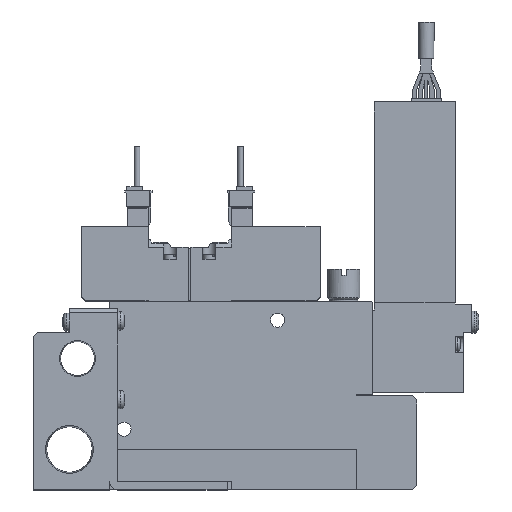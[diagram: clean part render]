
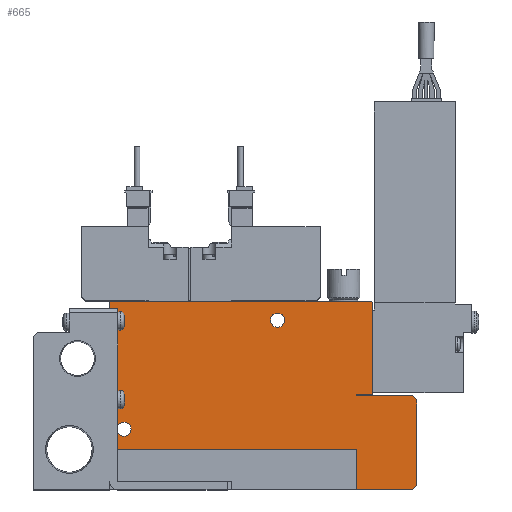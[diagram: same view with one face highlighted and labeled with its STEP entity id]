
A CAD part, top view. The second image highlights one B-rep face of the part: STEP entity #665.
In plain terms, the highlighted planar face has unit normal (0, 0, 1).
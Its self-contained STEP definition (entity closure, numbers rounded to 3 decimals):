
#665=ADVANCED_FACE('',(#1566,#1567,#1568),#1569,.F.);
#1566=FACE_OUTER_BOUND('',#2710,.T.);
#1567=FACE_BOUND('',#2711,.T.);
#1568=FACE_BOUND('',#2712,.T.);
#1569=PLANE('',#2713);
#2710=EDGE_LOOP('',(#5902,#5903,#5904,#5905,#5906,#5907,#5908,#5909,#5910,#5911,#5912,#5913,#5914,#5915));
#2711=EDGE_LOOP('',(#5916));
#2712=EDGE_LOOP('',(#5917));
#2713=AXIS2_PLACEMENT_3D('',#5918,#5919,#5920);
#5902=ORIENTED_EDGE('',*,*,#8067,.T.);
#5903=ORIENTED_EDGE('',*,*,#8068,.F.);
#5904=ORIENTED_EDGE('',*,*,#8069,.F.);
#5905=ORIENTED_EDGE('',*,*,#8070,.T.);
#5906=ORIENTED_EDGE('',*,*,#8071,.T.);
#5907=ORIENTED_EDGE('',*,*,#8065,.T.);
#5908=ORIENTED_EDGE('',*,*,#8072,.T.);
#5909=ORIENTED_EDGE('',*,*,#8073,.T.);
#5910=ORIENTED_EDGE('',*,*,#8074,.T.);
#5911=ORIENTED_EDGE('',*,*,#8075,.T.);
#5912=ORIENTED_EDGE('',*,*,#8076,.T.);
#5913=ORIENTED_EDGE('',*,*,#8077,.T.);
#5914=ORIENTED_EDGE('',*,*,#8078,.T.);
#5915=ORIENTED_EDGE('',*,*,#8079,.T.);
#5916=ORIENTED_EDGE('',*,*,#8080,.F.);
#5917=ORIENTED_EDGE('',*,*,#8081,.F.);
#5918=CARTESIAN_POINT('',(0.0,0.0,5.0));
#5919=DIRECTION('',(0.0,0.0,-1.0));
#5920=DIRECTION('',(0.0,-1.0,0.0));
#8065=EDGE_CURVE('',#9939,#9937,#9940,.T.);
#8067=EDGE_CURVE('',#9942,#9943,#9944,.T.);
#8068=EDGE_CURVE('',#9945,#9943,#9946,.T.);
#8069=EDGE_CURVE('',#9947,#9945,#9948,.T.);
#8070=EDGE_CURVE('',#9947,#9949,#9950,.T.);
#8071=EDGE_CURVE('',#9949,#9939,#9951,.T.);
#8072=EDGE_CURVE('',#9937,#9952,#9953,.T.);
#8073=EDGE_CURVE('',#9952,#9954,#9955,.T.);
#8074=EDGE_CURVE('',#9954,#9956,#9957,.T.);
#8075=EDGE_CURVE('',#9956,#9958,#9959,.T.);
#8076=EDGE_CURVE('',#9958,#9960,#9961,.T.);
#8077=EDGE_CURVE('',#9960,#9962,#9963,.T.);
#8078=EDGE_CURVE('',#9962,#9964,#9965,.T.);
#8079=EDGE_CURVE('',#9964,#9942,#9966,.T.);
#8080=EDGE_CURVE('',#9967,#9967,#9968,.T.);
#8081=EDGE_CURVE('',#9969,#9969,#9970,.T.);
#9937=VERTEX_POINT('',#12986);
#9939=VERTEX_POINT('',#12989);
#9940=LINE('',#12990,#12991);
#9942=VERTEX_POINT('',#12994);
#9943=VERTEX_POINT('',#12995);
#9944=LINE('',#12996,#12997);
#9945=VERTEX_POINT('',#12998);
#9946=LINE('',#12999,#13000);
#9947=VERTEX_POINT('',#13001);
#9948=LINE('',#13002,#13003);
#9949=VERTEX_POINT('',#13004);
#9950=LINE('',#13005,#13006);
#9951=LINE('',#13007,#13008);
#9952=VERTEX_POINT('',#13009);
#9953=LINE('',#13010,#13011);
#9954=VERTEX_POINT('',#13012);
#9955=LINE('',#13013,#13014);
#9956=VERTEX_POINT('',#13015);
#9957=LINE('',#13016,#13017);
#9958=VERTEX_POINT('',#13018);
#9959=LINE('',#13019,#13020);
#9960=VERTEX_POINT('',#13021);
#9961=LINE('',#13022,#13023);
#9962=VERTEX_POINT('',#13024);
#9963=LINE('',#13025,#13026);
#9964=VERTEX_POINT('',#13027);
#9965=LINE('',#13028,#13029);
#9966=LINE('',#13030,#13031);
#9967=VERTEX_POINT('',#13032);
#9968=CIRCLE('',#13033,1.75);
#9969=VERTEX_POINT('',#13034);
#9970=CIRCLE('',#13035,1.75);
#12986=CARTESIAN_POINT('',(76.0,22.25,5.0));
#12989=CARTESIAN_POINT('',(76.0,1.0,5.0));
#12990=CARTESIAN_POINT('',(76.0,1.0,5.0));
#12991=VECTOR('',#15445,1.0);
#12994=CARTESIAN_POINT('',(0.0,46.4,5.0));
#12995=CARTESIAN_POINT('',(0.0,10.1,5.0));
#12996=CARTESIAN_POINT('',(0.0,46.4,5.0));
#12997=VECTOR('',#15447,1.0);
#12998=CARTESIAN_POINT('',(61.1,10.1,5.0));
#12999=CARTESIAN_POINT('',(61.1,10.1,5.0));
#13000=VECTOR('',#15448,1.0);
#13001=CARTESIAN_POINT('',(61.1,0.0,5.0));
#13002=CARTESIAN_POINT('',(61.1,0.0,5.0));
#13003=VECTOR('',#15449,1.0);
#13004=CARTESIAN_POINT('',(75.0,0.0,5.0));
#13005=CARTESIAN_POINT('',(0.0,0.0,5.0));
#13006=VECTOR('',#15450,1.0);
#13007=CARTESIAN_POINT('',(75.0,0.0,5.0));
#13008=VECTOR('',#15451,1.0);
#13009=CARTESIAN_POINT('',(75.0,23.25,5.0));
#13010=CARTESIAN_POINT('',(76.0,22.25,5.0));
#13011=VECTOR('',#15452,1.0);
#13012=CARTESIAN_POINT('',(61.0,23.25,5.0));
#13013=CARTESIAN_POINT('',(75.0,23.25,5.0));
#13014=VECTOR('',#15453,1.0);
#13015=CARTESIAN_POINT('',(61.0,23.5,5.0));
#13016=CARTESIAN_POINT('',(61.0,23.25,5.0));
#13017=VECTOR('',#15454,1.0);
#13018=CARTESIAN_POINT('',(65.0,23.5,5.0));
#13019=CARTESIAN_POINT('',(61.0,23.5,5.0));
#13020=VECTOR('',#15455,1.0);
#13021=CARTESIAN_POINT('',(65.0,46.4,5.0));
#13022=CARTESIAN_POINT('',(65.0,23.5,5.0));
#13023=VECTOR('',#15456,1.0);
#13024=CARTESIAN_POINT('',(64.8,46.6,5.0));
#13025=CARTESIAN_POINT('',(65.0,46.4,5.0));
#13026=VECTOR('',#15457,1.0);
#13027=CARTESIAN_POINT('',(0.2,46.6,5.0));
#13028=CARTESIAN_POINT('',(64.8,46.6,5.0));
#13029=VECTOR('',#15458,1.0);
#13030=CARTESIAN_POINT('',(0.2,46.6,5.0));
#13031=VECTOR('',#15459,1.0);
#13032=CARTESIAN_POINT('',(5.25,15.0,5.0));
#13033=AXIS2_PLACEMENT_3D('',#15460,#15461,#15462);
#13034=CARTESIAN_POINT('',(43.25,42.0,5.0));
#13035=AXIS2_PLACEMENT_3D('',#15463,#15464,#15465);
#15445=DIRECTION('',(0.0,1.0,0.0));
#15447=DIRECTION('',(0.0,-1.0,0.0));
#15448=DIRECTION('',(-1.0,0.0,0.0));
#15449=DIRECTION('',(0.0,1.0,0.0));
#15450=DIRECTION('',(1.0,0.0,0.0));
#15451=DIRECTION('',(0.707,0.707,0.0));
#15452=DIRECTION('',(-0.707,0.707,0.0));
#15453=DIRECTION('',(-1.0,0.0,0.0));
#15454=DIRECTION('',(0.0,1.0,0.0));
#15455=DIRECTION('',(1.0,0.,0.0));
#15456=DIRECTION('',(0.0,1.0,0.0));
#15457=DIRECTION('',(-0.707,0.707,0.0));
#15458=DIRECTION('',(-1.0,0.0,0.0));
#15459=DIRECTION('',(-0.707,-0.707,0.0));
#15460=CARTESIAN_POINT('',(3.5,15.0,5.0));
#15461=DIRECTION('',(0.0,0.0,1.0));
#15462=DIRECTION('',(1.0,0.0,0.0));
#15463=CARTESIAN_POINT('',(41.5,42.0,5.0));
#15464=DIRECTION('',(0.0,0.0,1.0));
#15465=DIRECTION('',(1.0,0.0,0.0));
